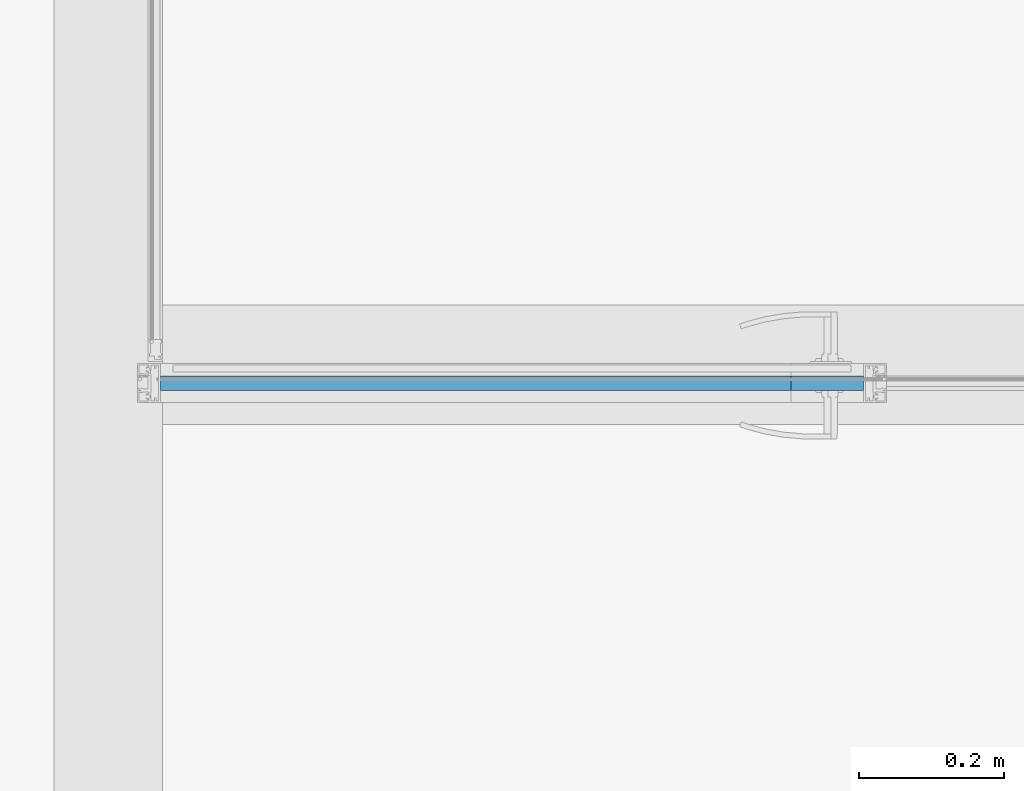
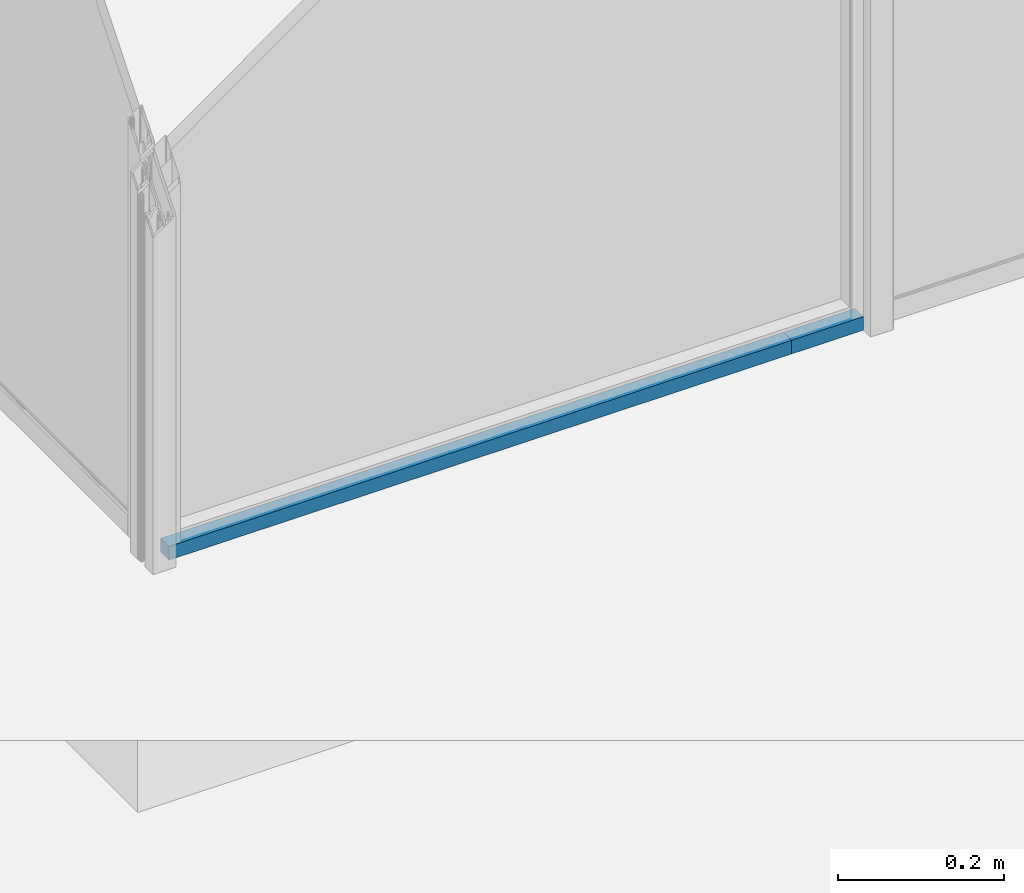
# One storey, part 14 of 387: 2 members, 1 element without a shape of its own.
"""IFC2X3 building model written with IfcOpenShell, lengths in millimetres."""

from ifc_helpers import new_model, entity, si_unit, converted_unit, derived_unit, money_unit, direction, frame, origin_with_axes, place, context, subcontext, project, spatial, polyline, outline, extrude, material, type_object, element, aggregate, save


model = new_model("IFC2X3")

# Units and contexts
model_context = context("Model", 3, precision=0.01, world=origin_with_axes(), true_north=direction((0.0, 1.0)))
body_context = subcontext(model_context, "Body", "Model", "MODEL_VIEW")
ifc_project = project(units=[si_unit("LENGTHUNIT", "METRE", prefix="MILLI"), si_unit("AREAUNIT", "SQUARE_METRE"), si_unit("VOLUMEUNIT", "CUBIC_METRE"), converted_unit("PLANEANGLEUNIT", "DEGREE", entity("IfcPlaneAngleMeasure", 0.0174532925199), si_unit("PLANEANGLEUNIT", "RADIAN"), dimensions=[0, 0, 0, 0, 0, 0, 0]), si_unit("SOLIDANGLEUNIT", "STERADIAN"), money_unit("EUR"), converted_unit("TIMEUNIT", "Year", entity("IfcTimeMeasure", 31556926.0), si_unit("TIMEUNIT", "SECOND"), dimensions=[0, 0, 1, 0, 0, 0, 0]), si_unit("MASSUNIT", "GRAM", prefix="KILO"), si_unit("THERMODYNAMICTEMPERATUREUNIT", "DEGREE_CELSIUS"), si_unit("LUMINOUSINTENSITYUNIT", "LUMEN"), si_unit("ENERGYUNIT", "JOULE", prefix="MEGA"), derived_unit("THERMALCONDUCTANCEUNIT", [(si_unit("POWERUNIT", "WATT"), 1), (si_unit("LENGTHUNIT", "METRE"), -1), (si_unit("THERMODYNAMICTEMPERATUREUNIT", "KELVIN"), -1)]), derived_unit("SPECIFICHEATCAPACITYUNIT", [(si_unit("ENERGYUNIT", "JOULE"), 1), (si_unit("MASSUNIT", "GRAM", prefix="KILO"), -1), (si_unit("THERMODYNAMICTEMPERATUREUNIT", "KELVIN"), -1)]), derived_unit("MASSDENSITYUNIT", [(si_unit("MASSUNIT", "GRAM", prefix="KILO"), 1), (si_unit("VOLUMEUNIT", "CUBIC_METRE"), -1)])], contexts=[model_context])

# Site, building, storey
site_placement = place(None, origin_with_axes())
site = spatial("IfcSite", under=ifc_project, at=site_placement, Name="Puškini 31, Narva", CompositionType="ELEMENT")
building_placement = place(site_placement, origin_with_axes())
building = spatial("IfcBuilding", under=site, at=building_placement, Name="Narva Riigigümnaasium", CompositionType="ELEMENT")
storey_placement = place(building_placement, frame((0.0, 0.0, 2640.0), z_axis=(0.0, 0.0, 1.0), x_axis=(1.0, 0.0, 0.0)))
storey = spatial("IfcBuildingStorey", under=building, at=storey_placement, Name="2.korrus +2.64", CompositionType="ELEMENT", Elevation=2640.0)

# Curtain wall, members
curtain_wall_type = type_object("IfcCurtainWallType", Name="Curtain Wall Type", PredefinedType="NOTDEFINED")
curtain_wall_placement = place(storey_placement, frame((28998.3333556, 173449.999984, -2.6516426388e-05), z_axis=(0.0, 0.0, 1.0), x_axis=(1.0, 0.0, 0.0)))
curtain_wall = element("IfcCurtainWall", 1, at=curtain_wall_placement, inside=storey, type_object=curtain_wall_type, Name="G-SKLF-15")
ifc_material = material(Name="Alumiiniumprofiil")
member_type = type_object("IfcMemberType", Name="20 x 20", PredefinedType="MULLION")
member_1_placement = place(curtain_wall_placement, frame((-633.333334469, 1.72803993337e-08, 0.0), z_axis=(1.0, 0.0, 0.0), x_axis=(0.0, 0.0, 1.0)))
member_1 = element("IfcMember", 2, at=member_1_placement, type_object=member_type, material=ifc_material, Name="G-SKLF-80-raam", ObjectType="MULLION", context=body_context, shape_type="SweptSolid", body=[
    extrude(outline(polyline([(9.99999999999, -20.0), (9.99999999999, 0.0), (-9.99999999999, 0.0), (-9.99999999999, -20.0), (9.99999999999, -20.0)])), frame((0.0, 0.0, 32.0000000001), z_axis=(0.0, 0.0, 1.0), x_axis=(0.0, 1.0, 0.0)), (0.0, 0.0, 1.0), 868.0),
])
member_2_placement = place(curtain_wall_placement, frame((266.666665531, -7.27595761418e-09, 0.0), z_axis=(1.0, 0.0, 0.0), x_axis=(0.0, 0.0, 1.0)))
member_2 = element("IfcMember", 3, at=member_2_placement, type_object=member_type, material=ifc_material, Name="G-SKLF-81-raam", ObjectType="MULLION", context=body_context, shape_type="SweptSolid", body=[
    extrude(outline(polyline([(9.99999999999, -20.0), (9.99999999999, 0.0), (-9.99999999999, 0.0), (-9.99999999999, -20.0), (9.99999999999, -20.0)])), frame((0.0, 0.0, 0.0), z_axis=(0.0, 0.0, 1.0), x_axis=(0.0, 1.0, 0.0)), (0.0, 0.0, 1.0), 100.000003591),
])
aggregate(curtain_wall, [member_1, member_2])

save(model, "model.ifc")
